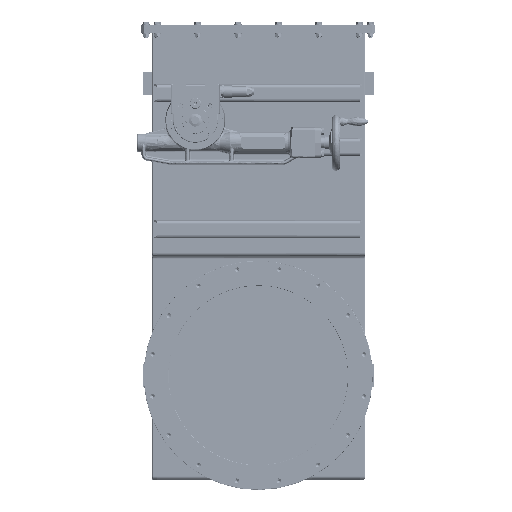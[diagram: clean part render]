
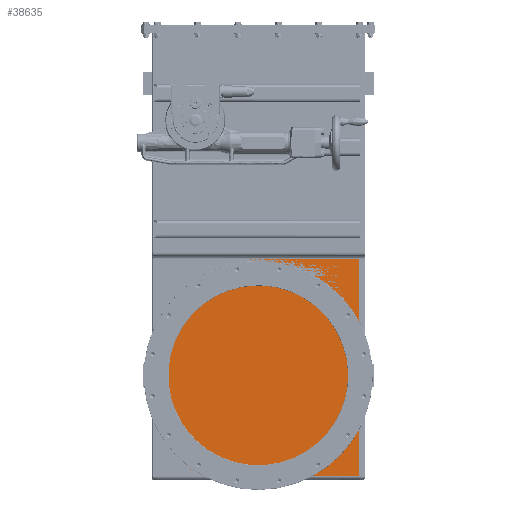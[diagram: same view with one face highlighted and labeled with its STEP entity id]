
A CAD part, top view. The second image highlights one B-rep face of the part: STEP entity #38635.
In plain terms, the highlighted free-form (B-spline) face has degree [1, 1] with [2, 2] control points.
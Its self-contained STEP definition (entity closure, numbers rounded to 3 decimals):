
#38193=CARTESIAN_POINT('V21',(-502.0,-18.,
   -225.75));
#38194=VERTEX_POINT('V21',#38193);
#38208=CARTESIAN_POINT('V23',(-986.5,
   -18.,-225.75));
#38209=VERTEX_POINT('V23',#38208);
#38210=CARTESIAN_POINT('E6',(-986.5,
   -18.,-225.75));
#38211=CARTESIAN_POINT('E6',(-502.0,-18.,
   -225.75));
#38212=QUASI_UNIFORM_CURVE('E6',1,(#38210,#38211),.POLYLINE_FORM.,
   .F.,.U.);
#38213=EDGE_CURVE('E6',#38209,#38194,#38212,.T.);
#38302=CARTESIAN_POINT('V24',(-986.5,
   -18.,225.75));
#38303=VERTEX_POINT('V24',#38302);
#38317=CARTESIAN_POINT('V22',(-502.0,-18.,
   225.75));
#38318=VERTEX_POINT('V22',#38317);
#38319=CARTESIAN_POINT('E27',(-502.0,-18.,
   225.75));
#38320=CARTESIAN_POINT('E27',(-986.5,
   -18.,225.75));
#38321=QUASI_UNIFORM_CURVE('E27',1,(#38319,#38320),.POLYLINE_FORM.,
   .F.,.U.);
#38322=EDGE_CURVE('E27',#38318,#38303,#38321,.T.);
#38612=CARTESIAN_POINT('E43',(-502.0,-18.,
   -225.75));
#38613=CARTESIAN_POINT('E43',(-502.0,-18.,
   225.75));
#38614=QUASI_UNIFORM_CURVE('E43',1,(#38612,#38613),.POLYLINE_FORM.,
   .F.,.U.);
#38615=EDGE_CURVE('E43',#38194,#38318,#38614,.T.);
#38620=CARTESIAN_POINT('F13',(-502.0,-18.,
   -225.75));
#38621=CARTESIAN_POINT('F13',(-986.5,
   -18.,-225.75));
#38622=CARTESIAN_POINT('F13',(-502.0,-18.,
   225.75));
#38623=CARTESIAN_POINT('F13',(-986.5,
   -18.,225.75));
#38624=QUASI_UNIFORM_SURFACE('F13',1,1,((#38620,#38622),(#38621,
   #38623)),.PLANE_SURF.,.F.,.F.,.U.);
#38625=ORIENTED_EDGE('E6',*,*,#38213,.T.);
#38626=ORIENTED_EDGE('F12',*,*,#38615,.T.);
#38627=ORIENTED_EDGE('E27',*,*,#38322,.T.);
#38628=CARTESIAN_POINT('E44',(-986.5,
   -18.,-225.75));
#38629=CARTESIAN_POINT('E44',(-986.5,
   -18.,225.75));
#38630=QUASI_UNIFORM_CURVE('E44',1,(#38628,#38629),.POLYLINE_FORM.,
   .F.,.U.);
#38631=EDGE_CURVE('E44',#38209,#38303,#38630,.T.);
#38632=ORIENTED_EDGE('E44',*,*,#38631,.F.);
#38633=EDGE_LOOP('F13',(#38625,#38626,#38627,#38632));
#38634=FACE_OUTER_BOUND('F13',#38633,.F.);
#38635=ADVANCED_FACE('F13',(#38634),#38624,.T.);
